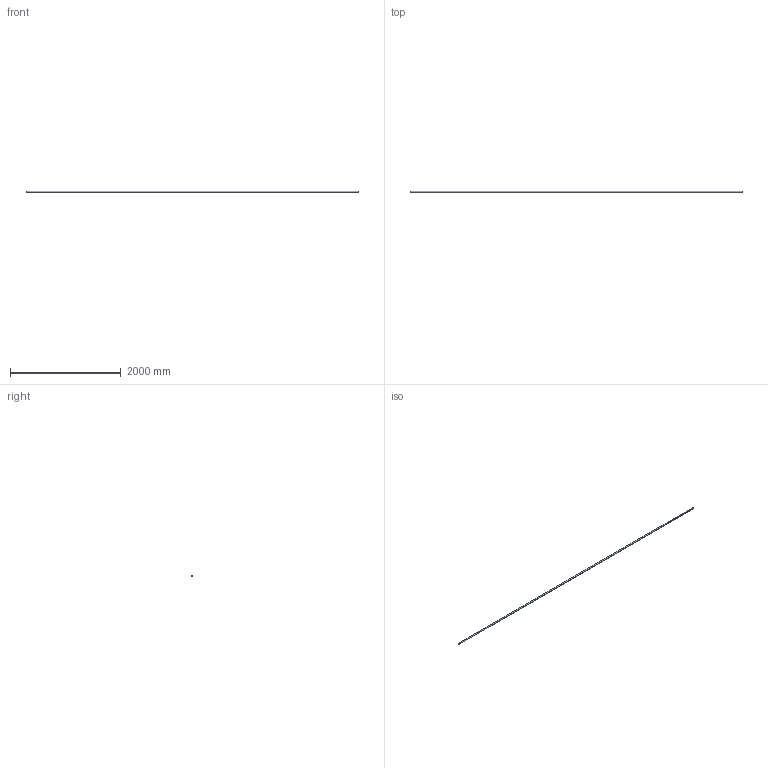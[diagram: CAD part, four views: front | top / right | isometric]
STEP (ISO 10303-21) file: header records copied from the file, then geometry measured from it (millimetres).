
FILE_DESCRIPTION (( 'STEP AP214' ), '1' );
FILE_NAME ('P220000.STEP', '2025-08-17T14:43:34', ( '' ), ( '' ), 'SwSTEP 2.0', 'SolidWorks 2020', '' );
FILE_SCHEMA (( 'AUTOMOTIVE_DESIGN' ));
Length unit declared in the file: millimetre
Products named in the file (1): P220000
Bounding box: 6000 x 22 x 21.88 mm (x, y, z)
Volume: 470484.9 mm3; surface area: 784298.4 mm2
Topology: 1 solids, 1 shells, 6 faces, 12 edges, 8 vertices
Faces by surface type: cylinder 4, plane 2
Entity records: 268 total; most frequent: DIRECTION 34, CARTESIAN_POINT 27, ORIENTED_EDGE 24, AXIS2_PLACEMENT_3D 15, EDGE_CURVE 12, UNCERTAINTY_MEASURE_WITH_UNIT 9, VERTEX_POINT 8, SURFACE_STYLE_FILL_AREA 8
